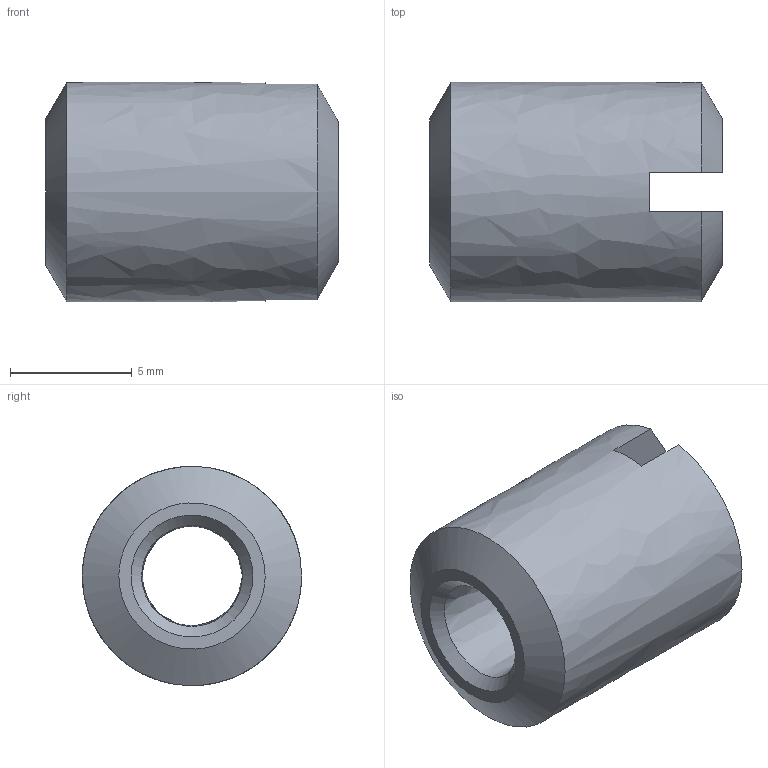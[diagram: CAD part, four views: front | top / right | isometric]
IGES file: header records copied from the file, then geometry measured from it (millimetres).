
Global section: file name: 309.0030.80; native system: Autodesk Inventor 2014; preprocessor: unknown; author: Cadenas PARTsolutions; organization: BOSSARD; date: 20150518.165656; units: millimetre
Bounding box: 12 x 9 x 9 mm (x, y, z)
Volume: 545.9 mm3; surface area: 562 mm2
Topology: 1 solids, 1 shells, 17 faces, 50 edges, 34 vertices
Faces by surface type: bspline 17
